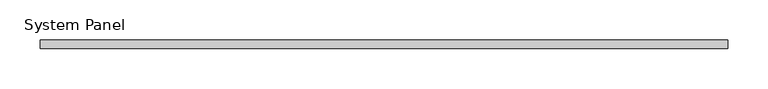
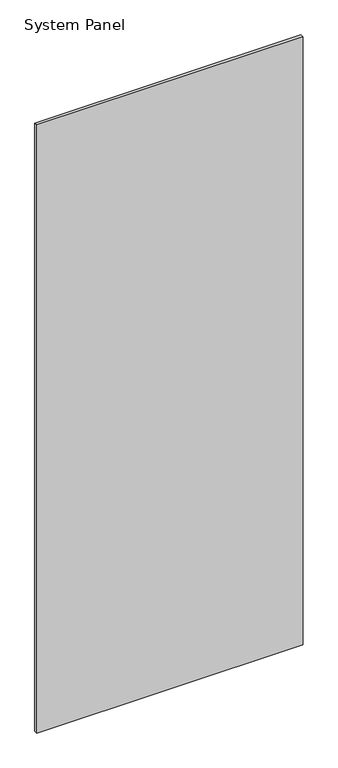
"""IFC4 building model written with IfcOpenShell, lengths in millimetres: plate geometry, System Panel : стекло_смещение_0."""

from ifc_helpers import new_model, si_unit, origin, origin_with_axes, place, context, project, spatial, polyline, outline, extrude, source, transform, mapped, element, save


def system_panel_417d11a2(model_context):
    return source(origin(), model_context, "Body", "SweptSolid", [
        extrude(outline(polyline([(425.0, -5.0), (-425.0, -5.0), (-425.0, 5.0), (425.0, 5.0), (425.0, -5.0)])), origin_with_axes(), (0.0, 0.0, 1.0), 2050.0),
    ])


if __name__ == "__main__":
    model = new_model("IFC4")
    model_context = context("Model", 3, world=origin())
    ifc_project = project(units=[si_unit("LENGTHUNIT", "METRE", prefix="MILLI")], contexts=[model_context])
    site = spatial("IfcSite", under=ifc_project)
    building = spatial("IfcBuilding", under=site)
    placement = place(None, origin())
    system_panel_shape = system_panel_417d11a2(model_context)
    element("IfcPlate", 1, ObjectType="System Panel : стекло_смещение_0", at=placement, inside=building, context=model_context, shape_type="MappedRepresentation", body=[
        mapped(system_panel_shape, transform((0.0, 0.0, 0.0), x_axis=(1.0, 0.0, 0.0), y_axis=(0.0, 1.0, 0.0), z_axis=(0.0, 0.0, 1.0))),
    ])
    save(model, "model.ifc")
